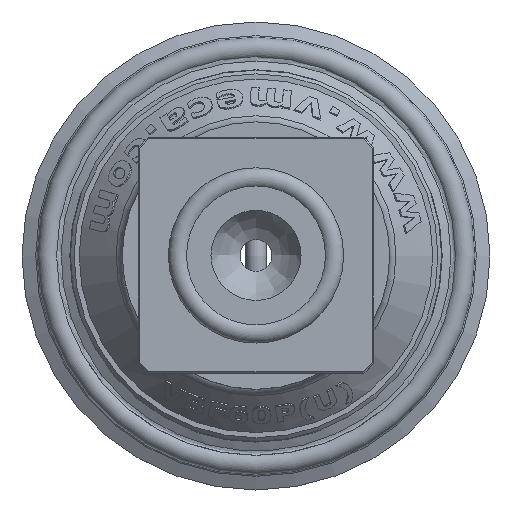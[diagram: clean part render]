
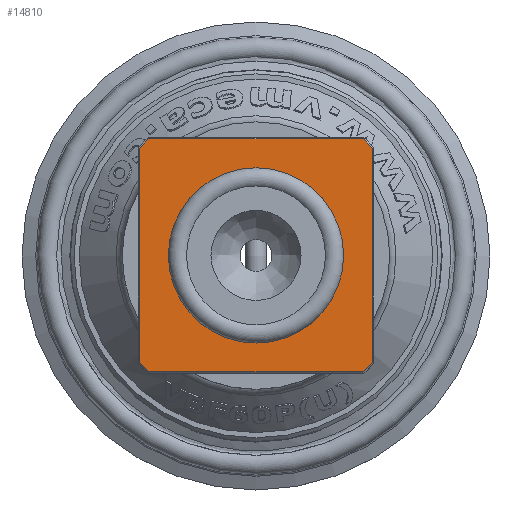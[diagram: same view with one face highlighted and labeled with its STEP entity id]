
A CAD part, top view. The second image highlights one B-rep face of the part: STEP entity #14810.
In plain terms, the highlighted planar face has unit normal (0, 0, 1).
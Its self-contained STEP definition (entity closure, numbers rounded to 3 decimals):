
#14810 = ADVANCED_FACE( '', ( #16926, #16927 ), #16928, .T. );
#16926 = FACE_OUTER_BOUND( '', #18051, .T. );
#16927 = FACE_BOUND( '', #18052, .T. );
#16928 = PLANE( '', #18053 );
#18051 = EDGE_LOOP( '', ( #19693, #19694, #19695, #19696, #19697, #19698, #19699, #19700 ) );
#18052 = EDGE_LOOP( '', ( #19701 ) );
#18053 = AXIS2_PLACEMENT_3D( '', #19702, #19703, #19704 );
#19693 = ORIENTED_EDGE( '', *, *, #26787, .T. );
#19694 = ORIENTED_EDGE( '', *, *, #26788, .T. );
#19695 = ORIENTED_EDGE( '', *, *, #26789, .T. );
#19696 = ORIENTED_EDGE( '', *, *, #26790, .T. );
#19697 = ORIENTED_EDGE( '', *, *, #26791, .T. );
#19698 = ORIENTED_EDGE( '', *, *, #26792, .T. );
#19699 = ORIENTED_EDGE( '', *, *, #26793, .T. );
#19700 = ORIENTED_EDGE( '', *, *, #26794, .T. );
#19701 = ORIENTED_EDGE( '', *, *, #26795, .T. );
#19702 = CARTESIAN_POINT( '', ( -15.875, 15.875, 6.767 ) );
#19703 = DIRECTION( '', ( 0., 0., 1. ) );
#19704 = DIRECTION( '', ( 1., 0., 0. ) );
#26787 = EDGE_CURVE( '', #27344, #27345, #27346, .T. );
#26788 = EDGE_CURVE( '', #27345, #27347, #27348, .T. );
#26789 = EDGE_CURVE( '', #27347, #27349, #27350, .T. );
#26790 = EDGE_CURVE( '', #27349, #27351, #27352, .T. );
#26791 = EDGE_CURVE( '', #27351, #27353, #27354, .T. );
#26792 = EDGE_CURVE( '', #27353, #27355, #27356, .T. );
#26793 = EDGE_CURVE( '', #27355, #27357, #27358, .T. );
#26794 = EDGE_CURVE( '', #27357, #27344, #27359, .T. );
#26795 = EDGE_CURVE( '', #27360, #27360, #27361, .T. );
#27344 = VERTEX_POINT( '', #27464 );
#27345 = VERTEX_POINT( '', #27465 );
#27346 = CIRCLE( '', #27466, 21.3 );
#27347 = VERTEX_POINT( '', #27467 );
#27348 = LINE( '', #27468, #27469 );
#27349 = VERTEX_POINT( '', #27470 );
#27350 = CIRCLE( '', #27471, 21.3 );
#27351 = VERTEX_POINT( '', #27472 );
#27352 = LINE( '', #27473, #27474 );
#27353 = VERTEX_POINT( '', #27475 );
#27354 = CIRCLE( '', #27476, 21.3 );
#27355 = VERTEX_POINT( '', #27477 );
#27356 = LINE( '', #27478, #27479 );
#27357 = VERTEX_POINT( '', #27480 );
#27358 = CIRCLE( '', #27481, 21.3 );
#27359 = LINE( '', #27482, #27483 );
#27360 = VERTEX_POINT( '', #27484 );
#27361 = CIRCLE( '', #27485, 11.8 );
#27464 = CARTESIAN_POINT( '', ( -14.422, 15.675, 6.767 ) );
#27465 = CARTESIAN_POINT( '', ( -15.675, 14.422, 6.767 ) );
#27466 = AXIS2_PLACEMENT_3D( '', #27656, #27657, #27658 );
#27467 = CARTESIAN_POINT( '', ( -15.675, -14.422, 6.767 ) );
#27468 = CARTESIAN_POINT( '', ( -15.675, 15.875, 6.767 ) );
#27469 = VECTOR( '', #27659, 1000. );
#27470 = CARTESIAN_POINT( '', ( -14.422, -15.675, 6.767 ) );
#27471 = AXIS2_PLACEMENT_3D( '', #27660, #27661, #27662 );
#27472 = CARTESIAN_POINT( '', ( 14.422, -15.675, 6.767 ) );
#27473 = CARTESIAN_POINT( '', ( -15.875, -15.675, 6.767 ) );
#27474 = VECTOR( '', #27663, 1000. );
#27475 = CARTESIAN_POINT( '', ( 15.675, -14.422, 6.767 ) );
#27476 = AXIS2_PLACEMENT_3D( '', #27664, #27665, #27666 );
#27477 = CARTESIAN_POINT( '', ( 15.675, 14.422, 6.767 ) );
#27478 = CARTESIAN_POINT( '', ( 15.675, 15.875, 6.767 ) );
#27479 = VECTOR( '', #27667, 1000. );
#27480 = CARTESIAN_POINT( '', ( 14.422, 15.675, 6.767 ) );
#27481 = AXIS2_PLACEMENT_3D( '', #27668, #27669, #27670 );
#27482 = CARTESIAN_POINT( '', ( -14.499, 15.675, 6.767 ) );
#27483 = VECTOR( '', #27671, 1000. );
#27484 = CARTESIAN_POINT( '', ( 11.8, 0., 6.767 ) );
#27485 = AXIS2_PLACEMENT_3D( '', #27672, #27673, #27674 );
#27656 = CARTESIAN_POINT( '', ( 0., 0., 6.767 ) );
#27657 = DIRECTION( '', ( 0., 0., 1. ) );
#27658 = DIRECTION( '', ( 1., 0., 0. ) );
#27659 = DIRECTION( '', ( 0., -1., 0. ) );
#27660 = CARTESIAN_POINT( '', ( 0., 0., 6.767 ) );
#27661 = DIRECTION( '', ( 0., 0., 1. ) );
#27662 = DIRECTION( '', ( 1., 0., 0. ) );
#27663 = DIRECTION( '', ( 1., 0., 0. ) );
#27664 = CARTESIAN_POINT( '', ( 0., 0., 6.767 ) );
#27665 = DIRECTION( '', ( 0., 0., 1. ) );
#27666 = DIRECTION( '', ( 1., 0., 0. ) );
#27667 = DIRECTION( '', ( 0., 1., 0. ) );
#27668 = CARTESIAN_POINT( '', ( 0., 0., 6.767 ) );
#27669 = DIRECTION( '', ( 0., 0., 1. ) );
#27670 = DIRECTION( '', ( 1., 0., 0. ) );
#27671 = DIRECTION( '', ( -1., 0., 0. ) );
#27672 = CARTESIAN_POINT( '', ( 0., 0., 6.767 ) );
#27673 = DIRECTION( '', ( 0., 0., -1. ) );
#27674 = DIRECTION( '', ( 1., 0., 0. ) );
